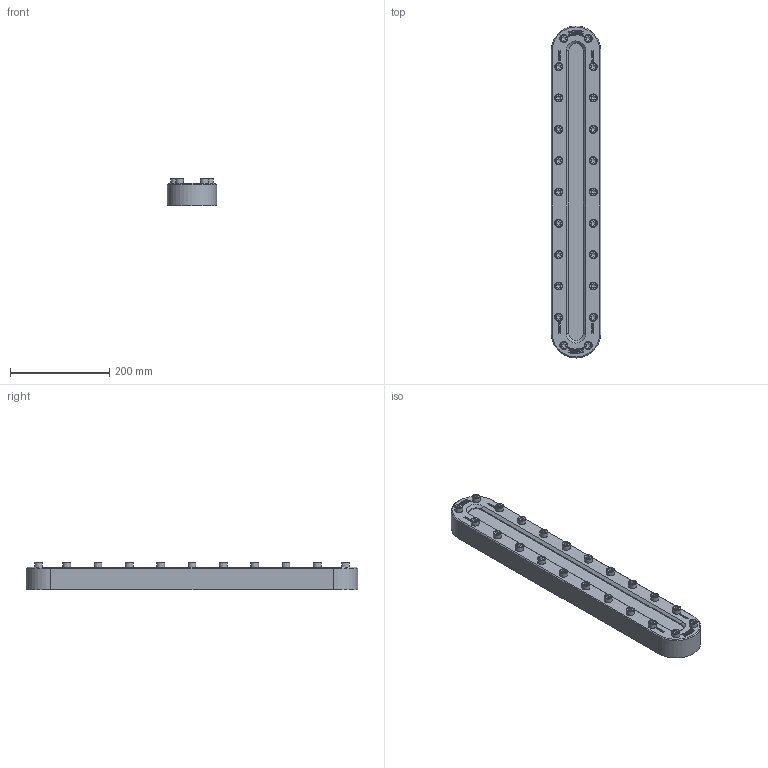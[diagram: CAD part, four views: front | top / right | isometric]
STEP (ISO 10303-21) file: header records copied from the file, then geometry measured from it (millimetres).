
FILE_DESCRIPTION(/* description */ (''),/* implementation_level */ '2;1');
FILE_NAME(/* name */ 'W:\Konstruktion_ACI\336\STEP\ACI-336-690.stp',/* time_stamp */ '2022-03-08T13:49:28+01:00',/* author */ ('Travnicek'),/* organization */ ('ACI Industriearmaturen'),/* preprocessor_version */ 'ST-DEVELOPER v16.1',/* originating_system */ 'Autodesk Inventor 2016',/* authorisation */ '');
FILE_SCHEMA (('AUTOMOTIVE_DESIGN { 1 0 10303 214 3 1 1 }'));
Length unit declared in the file: centimetre
Products named in the file (1): 336-ZB
Bounding box: 100 x 670 x 54.9 mm (x, y, z)
Volume: 2453572.3 mm3; surface area: 237257.4 mm2
Topology: 1 solids, 1 shells, 1464 faces, 3990 edges, 2650 vertices
Faces by surface type: plane 952, bspline 436, cylinder 28, cone 26, torus 22
Full cylindrical faces by diameter (mm): 16 x22
Entity records: 48534 total; most frequent: CARTESIAN_POINT 13883, ORIENTED_EDGE 7760, DIRECTION 5016, EDGE_CURVE 3880, LINE 2794, VECTOR 2794, VERTEX_POINT 2606, EDGE_LOOP 1652
